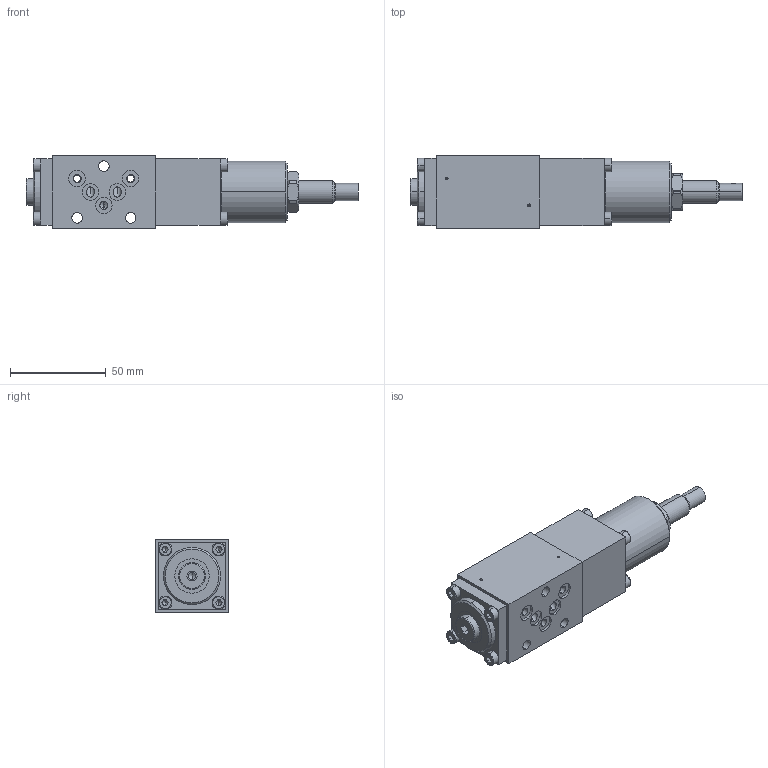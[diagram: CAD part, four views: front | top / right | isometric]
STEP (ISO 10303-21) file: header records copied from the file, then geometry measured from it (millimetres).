
FILE_DESCRIPTION (( 'STEP AP214' ), '1' );
FILE_NAME ('BDRVd4.STEP', '2017-03-23T06:27:33', ( '' ), ( '' ), 'SwSTEP 2.0', 'SolidWorks 2016', '' );
FILE_SCHEMA (( 'AUTOMOTIVE_DESIGN' ));
Length unit declared in the file: millimetre
Products named in the file (1): BDRVd4
Bounding box: 173.5 x 38 x 38 mm (x, y, z)
Volume: 157001.4 mm3; surface area: 32639.8 mm2
Topology: 2 solids, 15 shells, 475 faces, 1094 edges, 637 vertices
Faces by surface type: plane 193, cylinder 139, cone 101, torus 38, sphere 4
Entity records: 18791 total; most frequent: CARTESIAN_POINT 2848, DIRECTION 2375, ORIENTED_EDGE 2096, EDGE_CURVE 1048, AXIS2_PLACEMENT_3D 935, VERTEX_POINT 637, EDGE_LOOP 539, VECTOR 505
